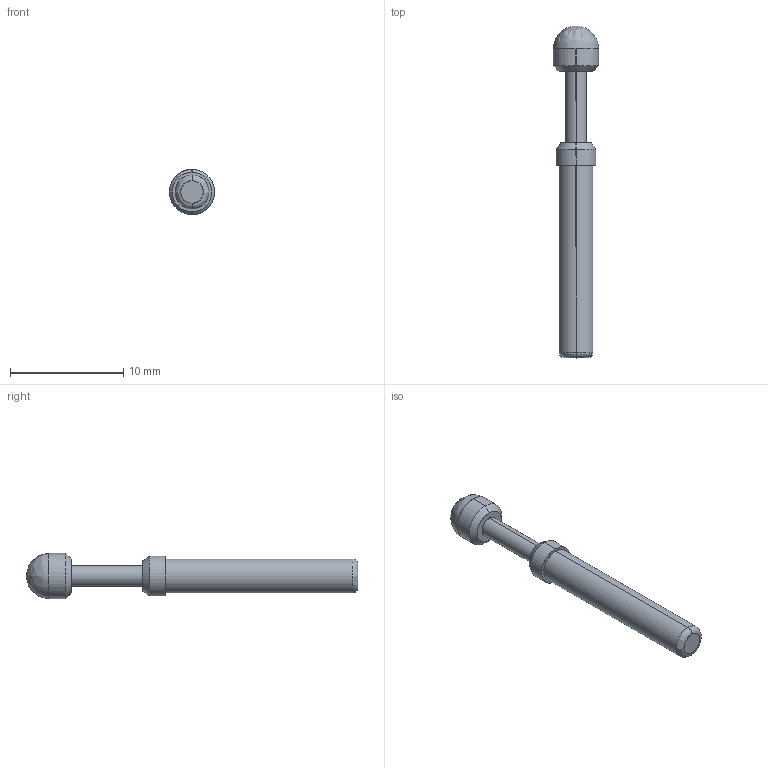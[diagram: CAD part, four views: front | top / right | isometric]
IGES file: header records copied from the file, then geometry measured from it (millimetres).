
Start section: SolidWorks IGES file using analytic representation for surfaces
Global section: file name: F:\OneDrive\Desktop\Coda\28.6\Front Fitment Completed\PD3 Series RTP\PD3D-4.0.IGS; native system: SolidWorks 2021; preprocessor: SolidWorks 2021; author: Georg; date: 210713.154057; units: millimetre
Bounding box: 4 x 29.3 x 4 mm (x, y, z)
Surface area: 285.1 mm2 (no closed solid volume)
Topology: 0 solids, 0 shells, 19 faces, 272 edges, 270 vertices
Faces by surface type: revolution 12, bspline 7
